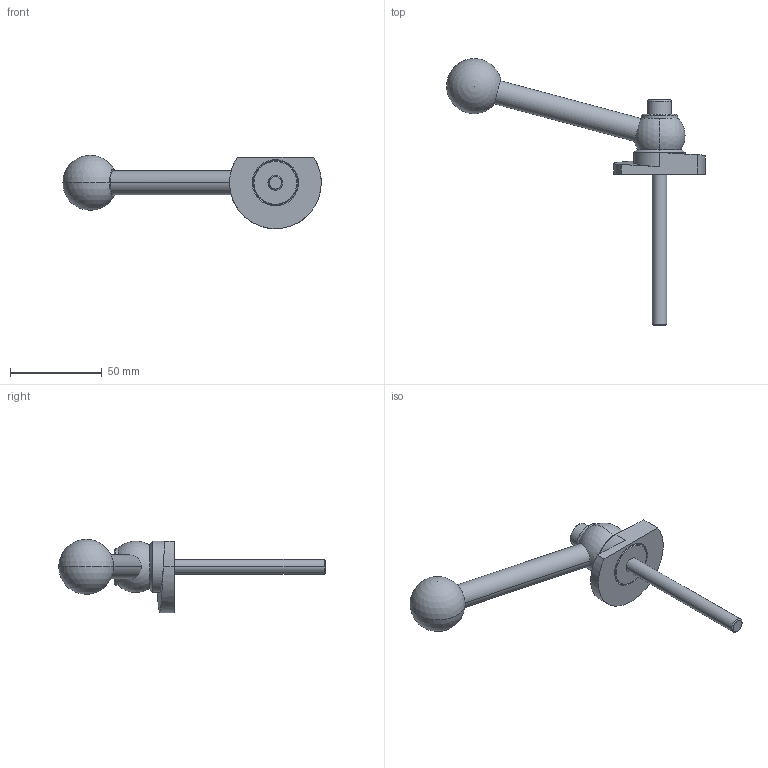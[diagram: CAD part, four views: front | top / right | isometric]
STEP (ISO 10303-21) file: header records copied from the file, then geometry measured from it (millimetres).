
FILE_DESCRIPTION (( 'STEP AP214' ), '1' );
FILE_NAME ('918.1-50-KVS-L-82.step', '2024-05-15T13:02:21', ( '' ), ( '' ), 'SwSTEP 2.0', 'SolidWorks 2022', '' );
FILE_SCHEMA (( 'AUTOMOTIVE_DESIGN' ));
Length unit declared in the file: millimetre
Products named in the file (1): 918.1-50-KVS-L-82
Bounding box: 140.94 x 145.31 x 40 mm (x, y, z)
Volume: 55579.5 mm3; surface area: 17550.6 mm2
Topology: 1 solids, 1 shells, 62 faces, 140 edges, 88 vertices
Faces by surface type: plane 20, cylinder 19, cone 14, sphere 4, bspline 3, torus 2
Entity records: 2001 total; most frequent: CARTESIAN_POINT 613, DIRECTION 305, ORIENTED_EDGE 260, EDGE_CURVE 130, AXIS2_PLACEMENT_3D 125, VERTEX_POINT 82, EDGE_LOOP 74, CIRCLE 65
